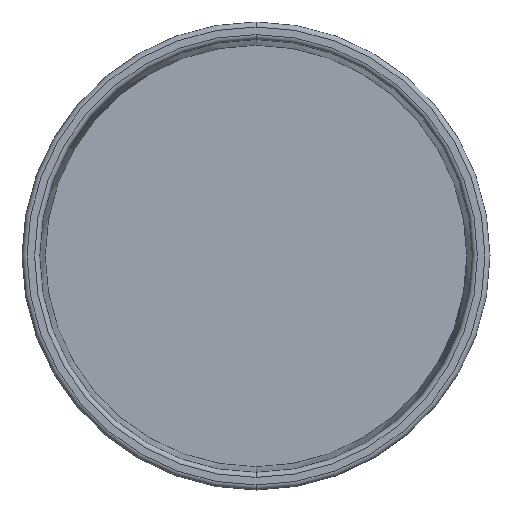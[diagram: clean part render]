
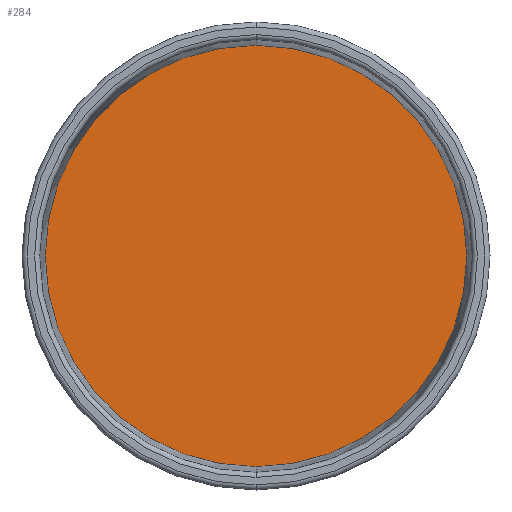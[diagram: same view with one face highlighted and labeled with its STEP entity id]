
A CAD part, front view. The second image highlights one B-rep face of the part: STEP entity #284.
In plain terms, the highlighted planar face has unit normal (0, -1, 0).
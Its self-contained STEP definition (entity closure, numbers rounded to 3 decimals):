
#175 = AXIS2_PLACEMENT_3D ( 'NONE', #271, #358, #634 ) ;
#271 = CARTESIAN_POINT ( 'NONE',  ( 0., 10.364, 0. ) ) ;
#284 = ADVANCED_FACE ( 'NONE', ( #1098 ), #344, .T. ) ;
#307 = VERTEX_POINT ( 'NONE', #611 ) ;
#344 = PLANE ( 'NONE',  #1118 ) ;
#358 = DIRECTION ( 'NONE',  ( 0., 1., 0. ) ) ;
#361 = DIRECTION ( 'NONE',  ( 0., 0., 1. ) ) ;
#373 = DIRECTION ( 'NONE',  ( 0., 1., 0. ) ) ;
#493 = CIRCLE ( 'NONE', #175, 41.868 ) ;
#524 = VERTEX_POINT ( 'NONE', #809 ) ;
#566 = EDGE_LOOP ( 'NONE', ( #626, #758 ) ) ;
#609 = CIRCLE ( 'NONE', #673, 41.868 ) ;
#611 = CARTESIAN_POINT ( 'NONE',  ( 0., 10.364, 41.868 ) ) ;
#626 = ORIENTED_EDGE ( 'NONE', *, *, #995, .F. ) ;
#629 = DIRECTION ( 'NONE',  ( 0., 0., -1. ) ) ;
#634 = DIRECTION ( 'NONE',  ( 0., 0., 1. ) ) ;
#673 = AXIS2_PLACEMENT_3D ( 'NONE', #862, #373, #361 ) ;
#758 = ORIENTED_EDGE ( 'NONE', *, *, #967, .F. ) ;
#809 = CARTESIAN_POINT ( 'NONE',  ( 0., 10.364, -41.868 ) ) ;
#862 = CARTESIAN_POINT ( 'NONE',  ( 0., 10.364, 0. ) ) ;
#907 = CARTESIAN_POINT ( 'NONE',  ( -41.868, 10.364, 0. ) ) ;
#967 = EDGE_CURVE ( 'NONE', #524, #307, #493, .T. ) ;
#995 = EDGE_CURVE ( 'NONE', #307, #524, #609, .T. ) ;
#1098 = FACE_OUTER_BOUND ( 'NONE', #566, .T. ) ;
#1109 = DIRECTION ( 'NONE',  ( 0., -1., 0. ) ) ;
#1118 = AXIS2_PLACEMENT_3D ( 'NONE', #907, #1109, #629 ) ;
